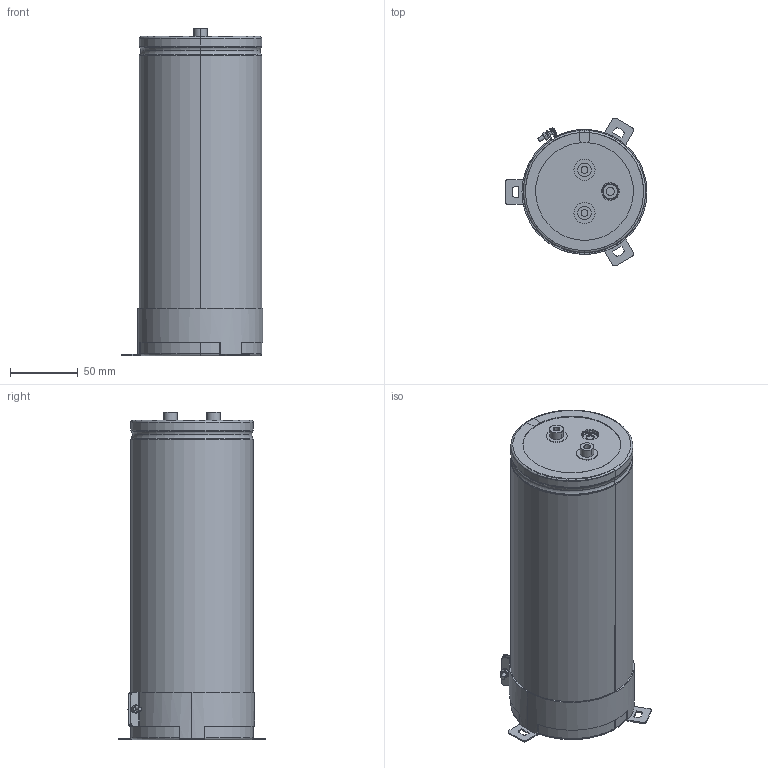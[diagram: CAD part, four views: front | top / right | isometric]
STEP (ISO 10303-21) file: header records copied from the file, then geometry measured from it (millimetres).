
FILE_DESCRIPTION(('STEP AP214'),'1');
FILE_NAME('90x235_Screw.stp','2022-03-14T08:40:54',(' '),(' '),'Spatial InterOp 3D',' ',' ');
FILE_SCHEMA(('AUTOMOTIVE_DESIGN { 1 0 10303 214 1 1 1 1 }'));
Length unit declared in the file: metre
Products named in the file (10): 90x235_Screw; Component1; Component2; Component3; Component4; Component5; Component6; Component7; Component8; Component9
Assembly tree (9 placements, depth 2):
  90x235_Screw
    Component1
    Component2
    Component3
    Component4
    Component5
    Component6
    Component7
    Component8
    Component9
Bounding box: 104.5 x 108.86 x 241 mm (x, y, z)
Volume: 1497565.7 mm3; surface area: 238370.1 mm2
Topology: 9 solids, 9 shells, 352 faces, 873 edges, 551 vertices
Faces by surface type: plane 112, cylinder 110, torus 90, cone 38, sphere 2
Entity records: 11474 total; most frequent: DIRECTION 2126, CARTESIAN_POINT 1918, ORIENTED_EDGE 1746, AXIS2_PLACEMENT_3D 919, EDGE_CURVE 873, VERTEX_POINT 551, CIRCLE 511, EDGE_LOOP 380
